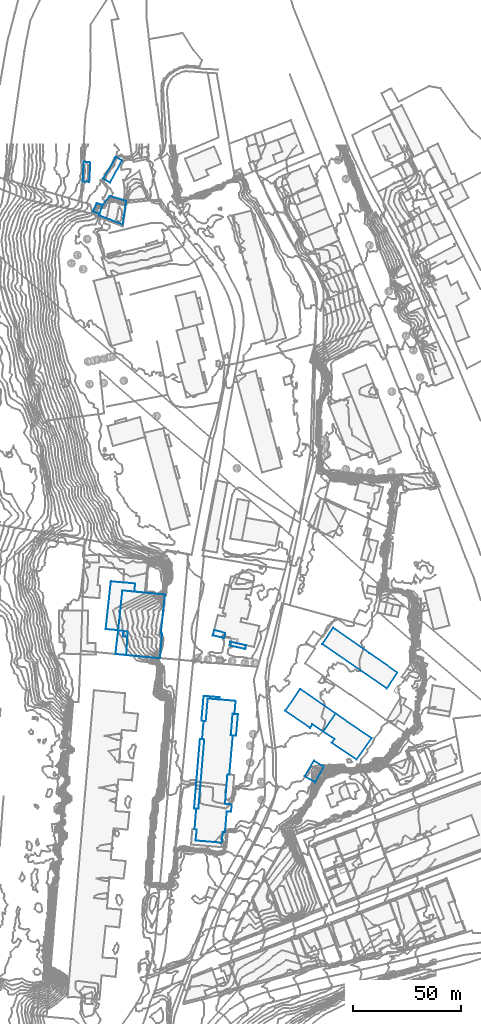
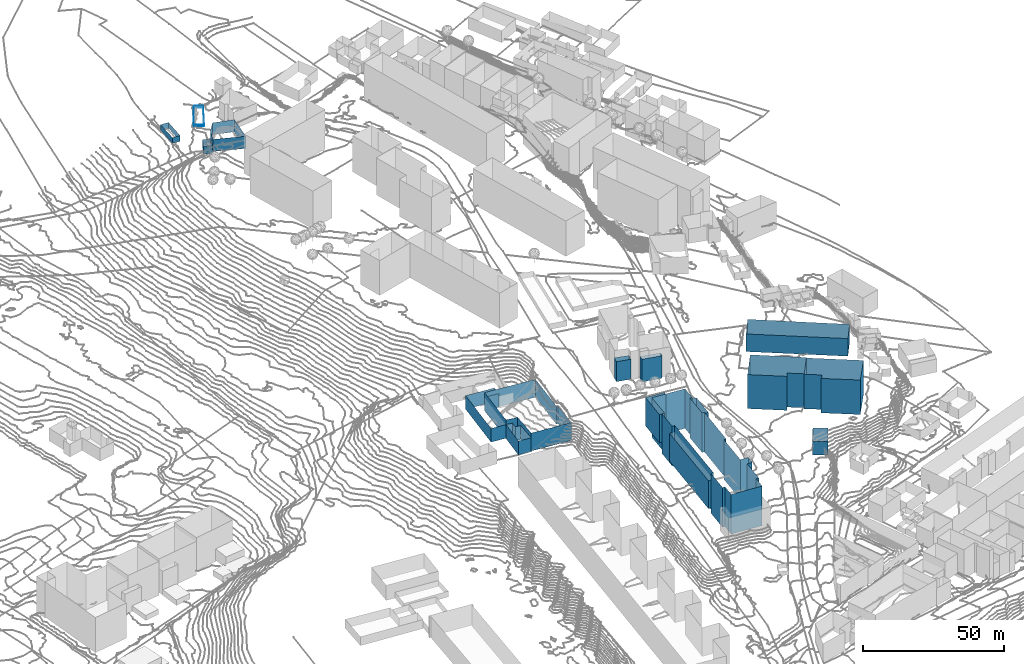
# Not in any storey, part 67 of 419: 17 walls.
"""IFC2X3 model written with IfcOpenShell, lengths in metres."""

import ifcopenshell
import ifcopenshell.guid

model = None  # the IFC model being written
_history = None  # IfcOwnerHistory: only IFC2X3 demands one
_inside = {}  # id of a spatial element -> (the spatial element, [elements in it])
_under = {}  # id of a project, library or spatial element -> (it, [spatial elements below it])
_declared = {}  # id of a project -> (the project, [libraries it declares])
_typed = {}  # id of a type object -> (the type object, [elements of that type])
_made_of = {}  # id of a material, layer set ... -> (it, [elements and type objects made of it])


def new_model(schema):
    """Start an empty IFC model of exactly this schema.

    Asked for "IFC4X3", IfcOpenShell would pick the latest addendum, in which some entities
    have other attributes; the version numbers below select the first issue.
    IFC2X3 requires an IfcOwnerHistory on every rooted entity: one is made here for all.
    """
    global model, _history
    if schema == "IFC4X3":
        model = ifcopenshell.file(schema_version=(4, 3, 0, 0))
    else:
        model = ifcopenshell.file(schema=schema)
    _inside.clear()
    _under.clear()
    _declared.clear()
    _typed.clear()
    _made_of.clear()
    _history = None
    if model.schema == "IFC2X3":
        org = make("IfcOrganization", Name="unknown")
        user = make(
            "IfcPersonAndOrganization",
            ThePerson=make("IfcPerson", FamilyName="unknown"),
            TheOrganization=org,
        )
        app = make(
            "IfcApplication",
            ApplicationDeveloper=org,
            Version="unknown",
            ApplicationFullName="unknown",
            ApplicationIdentifier="unknown",
        )
        _history = make(
            "IfcOwnerHistory",
            OwningUser=user,
            OwningApplication=app,
            ChangeAction="ADDED",
            CreationDate=0,
        )
    return model


def make(cls, **values):
    """One entity of the class cls with the attributes given. An attribute that is None is left unset."""
    return model.create_entity(
        cls, **{name: value for name, value in values.items() if value is not None}
    )


def rooted(cls, **values):
    """An entity with a GlobalId (a new one), such as an element, a storey or a relation."""
    return make(cls, GlobalId=ifcopenshell.guid.new(), OwnerHistory=_history, **values)


def si_unit(unit_type, name, prefix=None):
    """IfcSIUnit, for example si_unit("LENGTHUNIT", "METRE", prefix="MILLI")."""
    return make("IfcSIUnit", UnitType=unit_type, Prefix=prefix, Name=name)


def assignment(units):
    """IfcUnitAssignment: the units of a project."""
    return None if units is None else make("IfcUnitAssignment", Units=units)


def point(xyz):
    """IfcCartesianPoint."""
    return None if xyz is None else make("IfcCartesianPoint", Coordinates=xyz)


def direction(xyz):
    """IfcDirection."""
    return None if xyz is None else make("IfcDirection", DirectionRatios=xyz)


def frame(location, z_axis=None, x_axis=None):
    """IfcAxis2Placement3D, a coordinate frame: its origin and axes. An axis left out is left unset."""
    return make(
        "IfcAxis2Placement3D",
        Location=point(location),
        Axis=direction(z_axis),
        RefDirection=direction(x_axis),
    )


def origin_with_axes():
    """The frame at (0, 0, 0) with the z axis (0, 0, 1) and the x axis (1, 0, 0) written out."""
    return frame((0.0, 0.0, 0.0), z_axis=(0.0, 0.0, 1.0), x_axis=(1.0, 0.0, 0.0))


def place(relative_to, where):
    """IfcLocalPlacement: puts the frame where relative to a parent placement (None: the world)."""
    return make(
        "IfcLocalPlacement", PlacementRelTo=relative_to, RelativePlacement=where
    )


def context(
    kind, dimensions, precision=None, world=None, true_north=None, identifier=None
):
    """IfcGeometricRepresentationContext, for example the 3D "Model" context."""
    return make(
        "IfcGeometricRepresentationContext",
        ContextIdentifier=identifier,
        ContextType=kind,
        CoordinateSpaceDimension=dimensions,
        Precision=precision,
        WorldCoordinateSystem=world,
        TrueNorth=true_north,
    )


def subcontext(parent, identifier, kind, view, scale=None):
    """IfcGeometricRepresentationSubContext, for example "Body" below "Model"."""
    return make(
        "IfcGeometricRepresentationSubContext",
        ContextIdentifier=identifier,
        ContextType=kind,
        ParentContext=parent,
        TargetScale=scale,
        TargetView=view,
    )


def project(units=None, contexts=None):
    """IfcProject with its units and contexts."""
    return rooted(
        "IfcProject",
        Name="project",
        RepresentationContexts=contexts,
        UnitsInContext=assignment(units),
    )


def faces_of(points, faces, orient=None, outer=None):
    """IfcFace entities. A face is a list of loops; a loop is a list of indices into points, from 0.

    orient and outer hold one flag for each loop. By default every Orientation is true, the
    first loop of a face is its IfcFaceOuterBound and the others are IfcFaceBound.
    """
    made = []
    for i, loops in enumerate(faces):
        bounds = []
        for j, loop in enumerate(loops):
            is_outer = j == 0 if outer is None else outer[i][j]
            bounds.append(
                make(
                    "IfcFaceOuterBound" if is_outer else "IfcFaceBound",
                    Bound=make("IfcPolyLoop", Polygon=[points[k] for k in loop]),
                    Orientation=True if orient is None else orient[i][j],
                )
            )
        made.append(make("IfcFace", Bounds=bounds))
    return made


def faceted_brep(points, faces, orient=None, outer=None, voids=None):
    """IfcFacetedBrep: a solid bounded by flat faces; with voids (closed shells), ...WithVoids."""
    shared = [point(p) for p in points]
    hull = make("IfcClosedShell", CfsFaces=faces_of(shared, faces, orient, outer))
    if voids is None:
        return make("IfcFacetedBrep", Outer=hull)
    return make(
        "IfcFacetedBrepWithVoids",
        Outer=hull,
        Voids=[
            make(cls, CfsFaces=faces_of(shared, fs, o, b)) for cls, fs, o, b in voids
        ],
    )


def shape(context_of_items, identifier, shape_type, items):
    """IfcShapeRepresentation: the items that make up one representation, for example the "Body"."""
    return make(
        "IfcShapeRepresentation",
        ContextOfItems=context_of_items,
        RepresentationIdentifier=identifier,
        RepresentationType=shape_type,
        Items=items,
    )


def made_of(thing, what):
    """Note that an element or type object is made of a material, layer set ...; save() writes the relation."""
    if what is not None:
        _made_of.setdefault(what.id(), (what, []))[1].append(thing)
    return thing


def element(
    cls,
    number,
    at=None,
    inside=None,
    cuts=None,
    type_object=None,
    material=None,
    context=None,
    identifier="Body",
    shape_type=None,
    held_by="IfcProductDefinitionShape",
    body=None,
    shapes=None,
    **own,
):
    """One element of the class cls, such as IfcWall. Its Tag is "e" and its number.

    at: its placement. inside: the storey or other place that contains it. cuts: it is an
    opening in that element (IfcRelVoidsElement). A single representation is given by context,
    identifier, shape_type and body (its items); several are given by shapes. held_by: the class
    of the entity that holds the representations. save() writes the other relations.
    """
    e = rooted(cls, Tag="e%d" % number, ObjectPlacement=at, **own)
    if body is not None:
        shapes = [shape(context, identifier, shape_type, body)]
    if shapes is not None:
        e.Representation = make(held_by, Representations=shapes)
    if inside is not None:
        _inside.setdefault(inside.id(), (inside, []))[1].append(e)
    if cuts is not None:
        rooted(
            "IfcRelVoidsElement", RelatingBuildingElement=cuts, RelatedOpeningElement=e
        )
    if type_object is not None:
        _typed.setdefault(type_object.id(), (type_object, []))[1].append(e)
    return made_of(e, material)


def aggregate(whole, parts):
    """IfcRelAggregates: a whole, such as a stair, and the parts it consists of."""
    return rooted("IfcRelAggregates", RelatingObject=whole, RelatedObjects=parts)


def save(model, path):
    """Write the relations noted so far, then the file.

    IfcRelAggregates (storeys below a building ...), IfcRelContainedInSpatialStructure (elements
    in a storey), IfcRelDefinesByType, IfcRelAssociatesMaterial and IfcRelDeclares: one each for
    every whole, place, type object, material and project.
    """
    for whole, parts in _under.values():
        aggregate(whole, parts)
    for where, things in _inside.values():
        rooted(
            "IfcRelContainedInSpatialStructure",
            RelatedElements=things,
            RelatingStructure=where,
        )
    for kind, things in _typed.values():
        rooted("IfcRelDefinesByType", RelatedObjects=things, RelatingType=kind)
    for what, things in _made_of.values():
        rooted("IfcRelAssociatesMaterial", RelatedObjects=things, RelatingMaterial=what)
    for by, libraries in _declared.values():
        rooted("IfcRelDeclares", RelatingContext=by, RelatedDefinitions=libraries)
    model.write(path)


model = new_model("IFC2X3")

# Units and contexts
model_context = context("Model", 3, precision=1e-05, world=origin_with_axes())
body_context = subcontext(model_context, "Body", "Model", "MODEL_VIEW")
ifc_project = project(units=[si_unit("AREAUNIT", "SQUARE_METRE"), si_unit("LENGTHUNIT", "METRE")], contexts=[model_context])

# Walls
wall_1_placement = place(None, frame((864.7920204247, 715.6976909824, 91.3789970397), z_axis=(0.0, 0.0, 1.0), x_axis=(1.0, 0.0, 0.0)))
element("IfcWall", 1, at=wall_1_placement, Name="Mur 0", context=body_context, shape_type="Brep", body=[
    faceted_brep([(3.5, 41.7000000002, 17.1210029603), (4.2000000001, 50.1000000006, 17.1210029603), (3.5, 41.7000000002, 0.0), (4.2000000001, 50.1000000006, 0.0), (4.5, 41.6000000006, 17.1210029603), (4.5, 41.6000000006, 0.0), (1.8, 9.5, 17.1210029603), (1.8, 9.5, 0.0), (0.8, 9.5, 17.1210029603), (0.8, 9.5, 0.0), (0.0, 0.0, 17.1210029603), (0.0, 0.0, 0.0), (1.0, -0.0999999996, 17.1210029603), (1.0, -0.0999999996, 0.0), (0.5, -5.2000000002, 17.1210029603), (0.5, -5.2000000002, 0.0), (12.6000000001, -6.2000000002, 17.1210029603), (12.6000000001, -6.2000000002, 0.0), (13.1000000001, -1.2000000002, 17.1210029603), (13.1000000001, -1.2000000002, 0.0), (14.1000000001, -1.2999999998, 17.1210029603), (14.1000000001, -1.2999999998, 0.0), (14.9, 8.2999999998, 17.1210029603), (14.9, 8.2999999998, 0.0), (16.9, 8.2000000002, 17.1210029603), (16.9, 8.2000000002, 0.0), (17.2000000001, 11.5, 17.1210029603), (17.2000000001, 11.5, 0.0), (14.1000000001, 11.7999999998, 17.1210029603), (14.1000000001, 11.7999999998, 0.0), (15.2000000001, 25.4000000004, 17.1210029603), (15.2000000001, 25.4000000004, 0.0), (16.1000000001, 25.2999999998, 17.1210029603), (16.1000000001, 25.2999999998, 0.0), (17.7000000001, 43.4000000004, 17.1210029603), (17.7000000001, 43.4000000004, 0.0), (16.8, 43.5, 17.1210029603), (16.8, 43.5, 0.0), (17.6000000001, 53.5, 17.1210029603), (17.6000000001, 53.5, 0.0), (18.5, 53.4000000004, 17.1210029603), (18.5, 53.4000000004, 0.0), (19.0, 59.4000000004, 17.1210029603), (19.0, 59.4000000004, 0.0), (6.1000000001, 60.5, 17.1210029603), (6.1000000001, 60.5, 0.0), (5.2000000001, 50.0, 17.1210029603), (5.2000000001, 50.0, 0.0)], [[[0, 1, 2]], [[2, 1, 3]], [[4, 0, 5]], [[5, 0, 2]], [[6, 4, 7]], [[7, 4, 5]], [[8, 6, 9]], [[9, 6, 7]], [[10, 8, 11]], [[11, 8, 9]], [[12, 10, 13]], [[13, 10, 11]], [[14, 12, 15]], [[15, 12, 13]], [[16, 14, 17]], [[17, 14, 15]], [[18, 16, 19]], [[19, 16, 17]], [[20, 18, 21]], [[21, 18, 19]], [[22, 20, 23]], [[23, 20, 21]], [[24, 22, 25]], [[25, 22, 23]], [[26, 24, 27]], [[27, 24, 25]], [[28, 26, 29]], [[29, 26, 27]], [[30, 28, 31]], [[31, 28, 29]], [[32, 30, 33]], [[33, 30, 31]], [[34, 32, 35]], [[35, 32, 33]], [[36, 34, 37]], [[37, 34, 35]], [[38, 36, 39]], [[39, 36, 37]], [[40, 38, 41]], [[41, 38, 39]], [[42, 40, 43]], [[43, 40, 41]], [[44, 42, 45]], [[45, 42, 43]], [[1, 46, 3]], [[3, 46, 47]], [[46, 44, 47]], [[47, 44, 45]]]),
])
wall_2_placement = place(None, frame((867.9920204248, 765.8976909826, 96.2319999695), z_axis=(0.0, 0.0, 1.0), x_axis=(1.0, 0.0, 0.0)))
element("IfcWall", 2, at=wall_2_placement, Name="Mur 0", context=body_context, shape_type="Brep", body=[
    faceted_brep([(8.4, 10.9000000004, 12.2680000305), (8.2999999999, 9.7999999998, 12.2680000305), (8.4, 10.9000000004, 0.0), (8.2999999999, 9.7999999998, 0.0), (1.0, 11.5, 12.2680000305), (1.0, 11.5, 0.0), (0.0, 0.0, 12.2680000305), (0.0, 0.0, 0.0), (2.0, -0.2000000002, 12.2680000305), (2.0, -0.2000000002, 0.0), (2.9, 10.2999999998, 12.2680000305), (2.9, 10.2999999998, 0.0)], [[[0, 1, 2]], [[2, 1, 3]], [[4, 0, 5]], [[5, 0, 2]], [[6, 4, 7]], [[7, 4, 5]], [[8, 6, 9]], [[9, 6, 7]], [[1, 10, 3]], [[3, 10, 11]], [[10, 8, 11]], [[11, 8, 9]]]),
])
wall_3_placement = place(None, frame((817.6920204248, 1001.4976909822, 95.6800018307), z_axis=(0.0, 0.0, 1.0), x_axis=(1.0, 0.0, 0.0)))
element("IfcWall", 3, at=wall_3_placement, Name="Mur 0", context=body_context, shape_type="Brep", body=[
    faceted_brep([(3.1, -1.1999999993, 3.3199981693), (0.0, 0.0, 3.3199981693), (3.1, -1.1999999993, 0.0), (0.0, 0.0, 0.0), (4.6, 3.0, 3.3199981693), (4.6, 3.0, 0.0), (1.9, 3.8000000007, 3.3199981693), (1.9, 3.8000000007, 0.0)], [[[0, 1, 2]], [[2, 1, 3]], [[4, 0, 5]], [[5, 0, 2]], [[1, 6, 3]], [[3, 6, 7]], [[6, 4, 7]], [[7, 4, 5]]]),
])
wall_4_placement = place(None, frame((881.5920204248, 759.1976909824, 96.2240005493), z_axis=(0.0, 0.0, 1.0), x_axis=(1.0, 0.0, 0.0)))
element("IfcWall", 4, at=wall_4_placement, Name="Mur 0", context=body_context, shape_type="Brep", body=[
    faceted_brep([(0.8, 10.0, 11.7759994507), (1.7, 9.9000000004, 11.7759994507), (0.8, 10.0, 0.0), (1.7, 9.9000000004, 0.0), (0.0, 0.0, 11.7759994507), (0.0, 0.0, 0.0), (2.4, -0.2000000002, 11.7759994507), (2.4, -0.2000000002, 0.0), (3.3, 9.7000000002, 11.7759994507), (3.3, 9.7000000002, 0.0)], [[[0, 1, 2]], [[2, 1, 3]], [[4, 0, 5]], [[5, 0, 2]], [[6, 4, 7]], [[7, 4, 5]], [[1, 8, 3]], [[3, 8, 9]], [[8, 6, 9]], [[9, 6, 7]]]),
])
wall_5_placement = place(None, frame((924.2920204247, 760.8976909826, 94.2938012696), z_axis=(0.0, 0.0, 1.0), x_axis=(1.0, 0.0, 0.0)))
element("IfcWall", 5, at=wall_5_placement, Name="Mur 0", context=body_context, shape_type="Brep", body=[
    faceted_brep([(0.0, 0.0, 14.9061987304), (5.7000000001, 8.2999999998, 14.9061987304), (0.0, 0.0, 0.0), (5.7000000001, 8.2999999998, 0.0), (5.2000000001, -3.5, 14.9061987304), (5.2000000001, -3.5, 0.0), (3.9, -5.2000000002, 14.9061987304), (3.9, -5.2000000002, 0.0), (15.4, -13.0, 14.9061987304), (15.4, -13.0, 0.0), (22.4, -3.0999999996, 14.9061987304), (22.4, -3.0999999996, 0.0)], [[[0, 1, 2]], [[2, 1, 3]], [[4, 0, 5]], [[5, 0, 2]], [[6, 4, 7]], [[7, 4, 5]], [[8, 6, 9]], [[9, 6, 7]], [[1, 10, 3]], [[3, 10, 11]], [[10, 8, 11]], [[11, 8, 9]]]),
])
wall_6_placement = place(None, frame((822.4920204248, 1016.5976909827, 96.8140013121), z_axis=(0.0, 0.0, 1.0), x_axis=(1.0, 0.0, 0.0)))
element("IfcWall", 6, at=wall_6_placement, Name="Mur 0", context=body_context, shape_type="Brep", body=[
    faceted_brep([(0.0, 0.0, 0.7859986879), (5.9, 10.0999999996, 0.7859986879), (0.0, 0.0, 0.0), (5.9, 10.0999999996, 0.0), (3.2, -1.7999999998, 0.7859986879), (3.2, -1.7999999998, 0.0), (8.7, 8.5, 0.7859986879), (8.7, 8.5, 0.0)], [[[0, 1, 2]], [[2, 1, 3]], [[4, 0, 5]], [[5, 0, 2]], [[1, 6, 3]], [[3, 6, 7]], [[6, 4, 7]], [[7, 4, 5]]]),
])
wall_7_placement = place(None, frame((820.5920204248, 999.5976909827, 96.9673973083), z_axis=(0.0, 0.0, 1.0), x_axis=(1.0, 0.0, 0.0)))
element("IfcWall", 7, at=wall_7_placement, Name="Mur 0", context=body_context, shape_type="Brep", body=[
    faceted_brep([(11.0, -4.1000000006, 5.2326026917), (0.0, 0.0, 5.2326026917), (11.0, -4.1000000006, 0.0), (0.0, 0.0, 0.0), (12.6, 6.7999999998, 5.2326026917), (12.6, 6.7999999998, 0.0), (4.9, 9.0, 5.2326026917), (4.9, 9.0, 0.0), (1.7, 4.8999999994, 5.2326026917), (1.7, 4.8999999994, 0.0)], [[[0, 1, 2]], [[2, 1, 3]], [[4, 0, 5]], [[5, 0, 2]], [[6, 4, 7]], [[7, 4, 5]], [[1, 8, 3]], [[3, 8, 9]], [[8, 6, 9]], [[9, 6, 7]]]),
])
wall_8_placement = place(None, frame((864.5920204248, 725.2976909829, 93.6399993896), z_axis=(0.0, 0.0, 1.0), x_axis=(1.0, 0.0, 0.0)))
element("IfcWall", 8, at=wall_8_placement, Name="Mur 0", context=body_context, shape_type="Brep", body=[
    faceted_brep([(2.0, -0.1000000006, 12.0600006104), (1.0, -0.1000000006, 12.0600006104), (2.0, -0.1000000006, 0.0), (1.0, -0.1000000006, 0.0), (4.7, 32.0, 12.0600006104), (4.7, 32.0, 0.0), (2.7, 32.1999999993, 12.0600006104), (2.7, 32.1999999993, 0.0), (0.0, 0.0, 12.0600006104), (0.0, 0.0, 0.0)], [[[0, 1, 2]], [[2, 1, 3]], [[4, 0, 5]], [[5, 0, 2]], [[6, 4, 7]], [[7, 4, 5]], [[1, 8, 3]], [[3, 8, 9]], [[8, 6, 9]], [[9, 6, 7]]]),
])
wall_9_placement = place(None, frame((915.6920204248, 740.1976909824, 89.911000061), z_axis=(0.0, 0.0, 1.0), x_axis=(1.0, 0.0, 0.0)))
element("IfcWall", 9, at=wall_9_placement, Name="Mur 0", context=body_context, shape_type="Brep", body=[
    faceted_brep([(4.8, -2.7999999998, 5.788999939), (0.0, 0.0, 5.788999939), (4.8, -2.7999999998, 0.0), (0.0, 0.0, 0.0), (8.9, 4.5, 5.788999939), (8.9, 4.5, 0.0), (4.3, 7.2000000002, 5.788999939), (4.3, 7.2000000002, 0.0)], [[[0, 1, 2]], [[2, 1, 3]], [[4, 0, 5]], [[5, 0, 2]], [[1, 6, 3]], [[3, 6, 7]], [[6, 4, 7]], [[7, 4, 5]]]),
])
wall_10_placement = place(None, frame((828.1920204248, 796.7976909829, 86.2067993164), z_axis=(0.0, 0.0, 1.0), x_axis=(1.0, 0.0, 0.0)))
element("IfcWall", 10, at=wall_10_placement, Name="Mur 0", context=body_context, shape_type="Brep", body=[
    faceted_brep([(5.5, 7.7999999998, 5.9932006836), (5.0, -0.5, 5.9932006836), (5.5, 7.7999999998, 0.0), (5.0, -0.5, 0.0), (3.5, 8.1999999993, 5.9932006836), (3.5, 8.1999999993, 0.0), (3.7000000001, 10.5999999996, 5.9932006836), (3.7000000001, 10.5999999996, 0.0), (1.3, 11.0, 5.9932006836), (1.3, 11.0, 0.0), (0.0, 0.0, 5.9932006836), (0.0, 0.0, 0.0)], [[[0, 1, 2]], [[2, 1, 3]], [[4, 0, 5]], [[5, 0, 2]], [[6, 4, 7]], [[7, 4, 5]], [[8, 6, 9]], [[9, 6, 7]], [[1, 10, 3]], [[3, 10, 11]], [[10, 8, 11]], [[11, 8, 9]]]),
])
wall_11_placement = place(None, frame((873.1920204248, 805.3976909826, 96.8764018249), z_axis=(0.0, 0.0, 1.0), x_axis=(1.0, 0.0, 0.0)))
element("IfcWall", 11, at=wall_11_placement, Name="Mur 0", context=body_context, shape_type="Brep", body=[
    faceted_brep([(0.0, 0.0, 8.6235981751), (0.7000000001, 2.5, 8.6235981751), (0.0, 0.0, 0.0), (0.7000000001, 2.5, 0.0), (5.3, -1.2000000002, 8.6235981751), (5.3, -1.2000000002, 0.0), (5.8, 1.0999999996, 8.6235981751), (5.8, 1.0999999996, 0.0)], [[[0, 1, 2]], [[2, 1, 3]], [[4, 0, 5]], [[5, 0, 2]], [[1, 6, 3]], [[3, 6, 7]], [[6, 4, 7]], [[7, 4, 5]]]),
])
wall_12_placement = place(None, frame((823.6920204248, 808.2976909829, 86.3220993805), z_axis=(0.0, 0.0, 1.0), x_axis=(1.0, 0.0, 0.0)))
element("IfcWall", 12, at=wall_12_placement, Name="Mur 0", context=body_context, shape_type="Brep", body=[
    faceted_brep([(13.6, 21.0999999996, 5.8779006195), (13.3, 17.2999999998, 5.8779006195), (13.6, 21.0999999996, 0.0), (13.3, 17.2999999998, 0.0), (2.4, 22.0999999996, 5.8779006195), (2.4, 22.0999999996, 0.0), (0.0, 0.0, 5.8779006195), (0.0, 0.0, 0.0), (5.8, -0.5, 5.8779006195), (5.8, -0.5, 0.0), (7.7000000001, 17.8999999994, 5.8779006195), (7.7000000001, 17.8999999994, 0.0)], [[[0, 1, 2]], [[2, 1, 3]], [[4, 0, 5]], [[5, 0, 2]], [[6, 4, 7]], [[7, 4, 5]], [[8, 6, 9]], [[9, 6, 7]], [[1, 10, 3]], [[3, 10, 11]], [[10, 8, 11]], [[11, 8, 9]]]),
])
wall_13_placement = place(None, frame((880.9920204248, 800.6976909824, 96.9460003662), z_axis=(0.0, 0.0, 1.0), x_axis=(1.0, 0.0, 0.0)))
element("IfcWall", 13, at=wall_13_placement, Name="Mur 0", context=body_context, shape_type="Brep", body=[
    faceted_brep([(0.2999999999, 1.7999999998, 9.7539996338), (7.6, 0.1000000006, 9.7539996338), (0.2999999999, 1.7999999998, 0.0), (7.6, 0.1000000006, 0.0), (0.0, 0.0, 9.7539996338), (0.0, 0.0, 0.0), (7.2999999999, -1.5999999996, 9.7539996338), (7.2999999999, -1.5999999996, 0.0)], [[[0, 1, 2]], [[2, 1, 3]], [[4, 0, 5]], [[5, 0, 2]], [[1, 6, 3]], [[3, 6, 7]], [[6, 4, 7]], [[7, 4, 5]]]),
])
wall_14_placement = place(None, frame((829.4920204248, 807.7976909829, 86.4760025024), z_axis=(0.0, 0.0, 1.0), x_axis=(1.0, 0.0, 0.0)))
element("IfcWall", 14, at=wall_14_placement, Name="Mur 0", context=body_context, shape_type="Brep", body=[
    faceted_brep([(20.2999999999, -1.6000000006, 7.7239974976), (19.2999999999, -13.0, 7.7239974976), (20.2999999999, -1.6000000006, 0.0), (19.2999999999, -13.0, 0.0), (19.7, -1.6000000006, 7.7239974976), (19.7, -1.6000000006, 0.0), (21.6, 16.5, 7.7239974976), (21.6, 16.5, 0.0), (1.9, 18.3999999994, 7.7239974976), (1.9, 18.3999999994, 0.0), (0.0, 0.0, 7.7239974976), (0.0, 0.0, 0.0), (4.4, -0.7000000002, 7.7239974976), (4.4, -0.7000000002, 0.0), (3.7, -11.5, 7.7239974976), (3.7, -11.5, 0.0)], [[[0, 1, 2]], [[2, 1, 3]], [[4, 0, 5]], [[5, 0, 2]], [[6, 4, 7]], [[7, 4, 5]], [[8, 6, 9]], [[9, 6, 7]], [[10, 8, 11]], [[11, 8, 9]], [[12, 10, 13]], [[13, 10, 11]], [[1, 14, 3]], [[3, 14, 15]], [[14, 12, 15]], [[15, 12, 13]]]),
])
wall_15_placement = place(None, frame((813.0920204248, 1015.3976909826, 93.5100021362), z_axis=(0.0, 0.0, 1.0), x_axis=(1.0, 0.0, 0.0)))
element("IfcWall", 15, at=wall_15_placement, Name="Mur 0", context=body_context, shape_type="Brep", body=[
    faceted_brep([(0.0, 0.0, 2.4899978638), (0.4, 9.0999999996, 2.4899978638), (0.0, 0.0, 0.0), (0.4, 9.0999999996, 0.0), (3.0, -0.2000000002, 2.4899978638), (3.0, -0.2000000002, 0.0), (3.5, 8.7999999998, 2.4899978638), (3.5, 8.7999999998, 0.0)], [[[0, 1, 2]], [[2, 1, 3]], [[4, 0, 5]], [[5, 0, 2]], [[1, 6, 3]], [[3, 6, 7]], [[6, 4, 7]], [[7, 4, 5]]]),
])
wall_16_placement = place(None, frame((906.6920204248, 770.4976909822, 94.7031976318), z_axis=(0.0, 0.0, 1.0), x_axis=(1.0, 0.0, 0.0)))
element("IfcWall", 16, at=wall_16_placement, Name="Mur 0", context=body_context, shape_type="Brep", body=[
    faceted_brep([(6.9, 10.1000000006, 14.6968023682), (23.3, -1.2999999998, 14.6968023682), (6.9, 10.1000000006, 0.0), (23.3, -1.2999999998, 0.0), (0.0, 0.0, 14.6968023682), (0.0, 0.0, 0.0), (11.5, -7.8999999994, 14.6968023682), (11.5, -7.8999999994, 0.0), (12.6, -6.1999999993, 14.6968023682), (12.6, -6.1999999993, 0.0), (17.6, -9.5999999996, 14.6968023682), (17.6, -9.5999999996, 0.0)], [[[0, 1, 2]], [[2, 1, 3]], [[4, 0, 5]], [[5, 0, 2]], [[6, 4, 7]], [[7, 4, 5]], [[8, 6, 9]], [[9, 6, 7]], [[1, 10, 3]], [[3, 10, 11]], [[10, 8, 11]], [[11, 8, 9]]]),
])
wall_17_placement = place(None, frame((923.8920204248, 801.3976909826, 94.5760009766), z_axis=(0.0, 0.0, 1.0), x_axis=(1.0, 0.0, 0.0)))
element("IfcWall", 17, at=wall_17_placement, Name="Mur 0", context=body_context, shape_type="Brep", body=[
    faceted_brep([(5.0, 7.5, 7.6239990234), (21.6, -4.0999999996, 7.6239990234), (5.0, 7.5, 0.0), (21.6, -4.0999999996, 0.0), (0.0, 0.0, 7.6239990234), (0.0, 0.0, 0.0), (29.7999999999, -20.5, 7.6239990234), (29.7999999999, -20.5, 0.0), (34.7, -13.2000000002, 7.6239990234), (34.7, -13.2000000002, 0.0)], [[[0, 1, 2]], [[2, 1, 3]], [[4, 0, 5]], [[5, 0, 2]], [[6, 4, 7]], [[7, 4, 5]], [[1, 8, 3]], [[3, 8, 9]], [[8, 6, 9]], [[9, 6, 7]]]),
])

save(model, "model.ifc")
